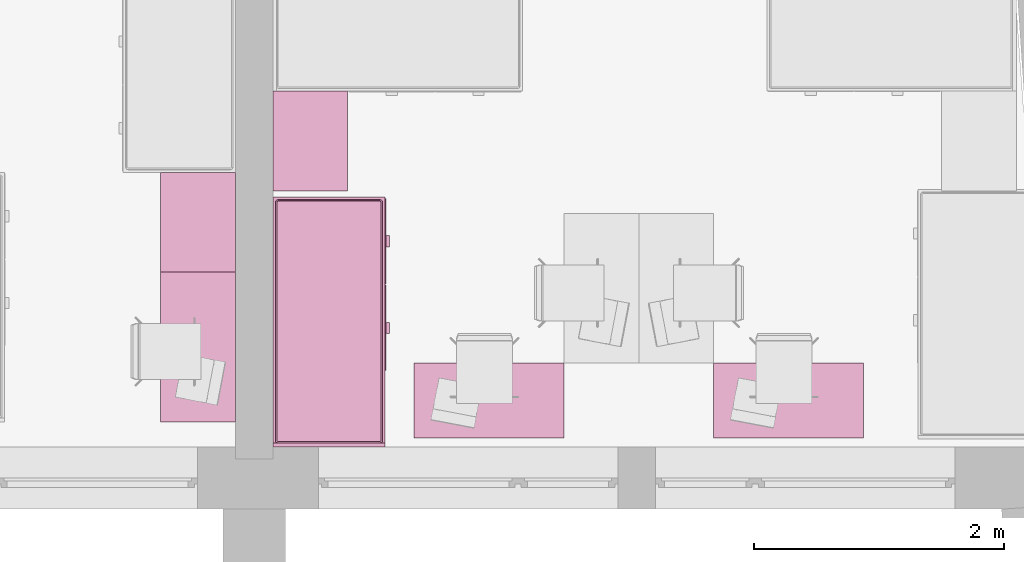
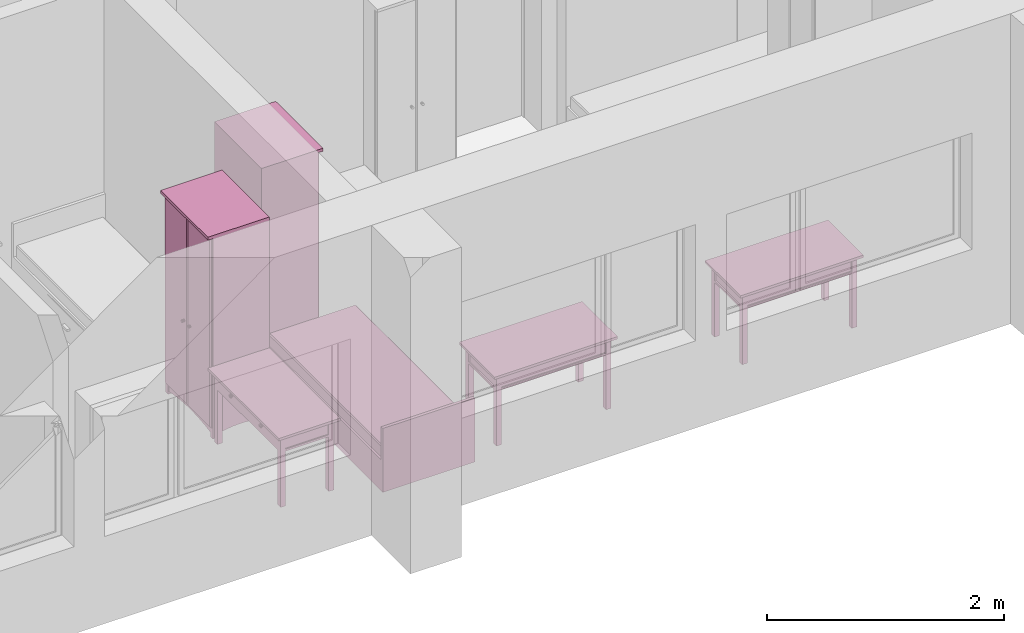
# One storey, part 139 of 165: 6 furnishings.
"""IFC2X3 building model written with IfcOpenShell, lengths in millimetres."""

from ifc_helpers import new_model, entity, si_unit, converted_unit, money_unit, direction, frame, origin_with_axes, place, context, subcontext, project, spatial, faceted_brep, source, transform, mapped, material, material_list, type_object, element, save


model = new_model("IFC2X3")

# Units and contexts
model_context = context("Model", 3, precision=1e-05, world=origin_with_axes(), true_north=direction((0.0, 1.0)))
body_context = subcontext(model_context, "Body", "Model", "MODEL_VIEW")
ifc_project = project(units=[si_unit("LENGTHUNIT", "METRE", prefix="MILLI"), si_unit("AREAUNIT", "SQUARE_METRE"), si_unit("VOLUMEUNIT", "CUBIC_METRE"), converted_unit("PLANEANGLEUNIT", "DEGREE", entity("IfcPlaneAngleMeasure", 0.0174532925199), si_unit("PLANEANGLEUNIT", "RADIAN"), dimensions=[0, 0, 0, 0, 0, 0, 0]), si_unit("SOLIDANGLEUNIT", "STERADIAN"), money_unit("USD"), converted_unit("TIMEUNIT", "Year", entity("IfcTimeMeasure", 31556926.0), si_unit("TIMEUNIT", "SECOND"), dimensions=[0, 0, 0, 0, 0, 0, 0]), si_unit("MASSUNIT", "GRAM"), si_unit("THERMODYNAMICTEMPERATUREUNIT", "DEGREE_CELSIUS"), si_unit("LUMINOUSINTENSITYUNIT", "LUMEN")], contexts=[model_context])

# Site, building, storey
site_placement = place(None, origin_with_axes())
site = spatial("IfcSite", under=ifc_project, at=site_placement, Name="Site", CompositionType="ELEMENT")
building_placement = place(site_placement, origin_with_axes())
building = spatial("IfcBuilding", under=site, at=building_placement, Name="Building", CompositionType="ELEMENT")
storey_placement = place(building_placement, frame((0.0, 0.0, 6300.0), z_axis=(0.0, 0.0, 1.0), x_axis=(1.0, 0.0, 0.0)))
storey = spatial("IfcBuildingStorey", under=building, at=storey_placement, Name="4KORRUS", CompositionType="ELEMENT", Elevation=6300.0)

# Furnishings
ifc_material = material(Name="Background")
ifc_material_list = material_list([ifc_material])
furnishing_element_type_1 = type_object("IfcFurnishingElementType", Name="Cupboard 19")
shared_shape_1 = source(origin_with_axes(), body_context, "Body", "Brep", [
    faceted_brep([(-780.0, 600.0, 120.0), (-780.0, 580.0, 120.0), (-780.0, 580.0, 2050.0), (-780.0, 600.0, 2050.0), (-20.0, 600.0, 120.0), (-20.0, 580.0, 120.0), (-20.0, 580.0, 2050.0), (-20.0, 600.0, 2050.0)], [[[0, 1, 2, 3]], [[0, 4, 5, 1]], [[1, 5, 6, 2]], [[3, 2, 6, 7]], [[4, 0, 3, 7]], [[5, 4, 7, 6]]]),
    faceted_brep([(0.0, 50.0, 100.0), (-20.0, 50.0, 100.0), (-20.0, 600.0, 100.0), (0.0, 600.0, 100.0), (0.0, 50.0, 2070.0), (-20.0, 50.0, 2070.0), (-20.0, 600.0, 2070.0), (0.0, 600.0, 2070.0)], [[[0, 1, 2, 3]], [[1, 0, 4, 5]], [[2, 1, 5, 6]], [[3, 2, 6, 7]], [[0, 3, 7, 4]], [[5, 4, 7, 6]]]),
    faceted_brep([(-780.0, 50.0, 100.0), (-800.0, 50.0, 100.0), (-800.0, 600.0, 100.0), (-780.0, 600.0, 100.0), (-780.0, 50.0, 2070.0), (-800.0, 50.0, 2070.0), (-800.0, 600.0, 2070.0), (-780.0, 600.0, 2070.0)], [[[0, 1, 2, 3]], [[1, 0, 4, 5]], [[2, 1, 5, 6]], [[3, 2, 6, 7]], [[0, 3, 7, 4]], [[5, 4, 7, 6]]]),
    faceted_brep([(-20.0, 50.0, 100.0), (-780.0, 50.0, 100.0), (-780.0, 600.0, 100.0), (-20.0, 600.0, 100.0), (-20.0, 50.0, 120.0), (-780.0, 50.0, 120.0), (-780.0, 600.0, 120.0), (-20.0, 600.0, 120.0)], [[[0, 1, 2, 3]], [[1, 0, 4, 5]], [[2, 1, 5, 6]], [[3, 2, 6, 7]], [[0, 3, 7, 4]], [[5, 4, 7, 6]]]),
    faceted_brep([(-20.0, 50.0, 2050.0), (-780.0, 50.0, 2050.0), (-780.0, 600.0, 2050.0), (-20.0, 600.0, 2050.0), (-20.0, 50.0, 2070.0), (-780.0, 50.0, 2070.0), (-780.0, 600.0, 2070.0), (-20.0, 600.0, 2070.0)], [[[0, 1, 2, 3]], [[1, 0, 4, 5]], [[2, 1, 5, 6]], [[3, 2, 6, 7]], [[0, 3, 7, 4]], [[5, 4, 7, 6]]]),
    faceted_brep([(0.0, 600.0, 2070.0), (0.0, 600.0, 2100.0), (0.0, 0.0, 2100.0), (0.0, 0.0, 2070.0), (-800.0, 600.0, 2070.0), (-800.0, 600.0, 2100.0), (-800.0, 0.0, 2100.0), (-800.0, 0.0, 2070.0)], [[[0, 1, 2, 3]], [[4, 5, 1, 0]], [[1, 5, 6, 2]], [[3, 2, 6, 7]], [[0, 3, 7, 4]], [[7, 6, 5, 4]]]),
    faceted_brep([(-760.0, 590.0, 25.0), (-640.962, 590.0, 45.8), (-640.962, 570.0, 45.8), (-760.0, 570.0, 25.0), (-760.0, 590.0, 100.0), (-40.0, 590.0, 100.0), (-40.0, 590.0, 25.0), (-159.038, 590.0, 45.8), (-279.23, 590.0, 58.32), (-400.0, 590.0, 62.5), (-520.77, 590.0, 58.32), (-520.77, 570.0, 58.32), (-400.0, 570.0, 62.5), (-279.23, 570.0, 58.32), (-159.038, 570.0, 45.8), (-40.0, 570.0, 25.0), (-40.0, 570.0, 100.0), (-760.0, 570.0, 100.0)], [[[0, 1, 2, 3]], [[0, 4, 5, 6, 7, 8, 9, 10, 1]], [[1, 10, 11, 2]], [[3, 2, 11, 12, 13, 14, 15, 16, 17]], [[4, 0, 3, 17]], [[5, 4, 17, 16]], [[6, 5, 16, 15]], [[7, 6, 15, 14]], [[8, 7, 14, 13]], [[9, 8, 13, 12]], [[10, 9, 12, 11]]]),
    faceted_brep([(-760.0, 80.0, 25.0), (-640.962, 80.0, 45.8), (-640.962, 60.0, 45.8), (-760.0, 60.0, 25.0), (-760.0, 80.0, 100.0), (-40.0, 80.0, 100.0), (-40.0, 80.0, 25.0), (-159.038, 80.0, 45.8), (-279.23, 80.0, 58.32), (-400.0, 80.0, 62.5), (-520.77, 80.0, 58.32), (-520.77, 60.0, 58.32), (-400.0, 60.0, 62.5), (-279.23, 60.0, 58.32), (-159.038, 60.0, 45.8), (-40.0, 60.0, 25.0), (-40.0, 60.0, 100.0), (-760.0, 60.0, 100.0)], [[[0, 1, 2, 3]], [[0, 4, 5, 6, 7, 8, 9, 10, 1]], [[1, 10, 11, 2]], [[3, 2, 11, 12, 13, 14, 15, 16, 17]], [[4, 0, 3, 17]], [[5, 4, 17, 16]], [[6, 5, 16, 15]], [[7, 6, 15, 14]], [[8, 7, 14, 13]], [[9, 8, 13, 12]], [[10, 9, 12, 11]]]),
    faceted_brep([(-790.0, 90.0, 25.0), (-790.0, 141.266, 38.072), (-770.0, 141.266, 38.072), (-770.0, 90.0, 25.0), (-790.0, 90.0, 100.0), (-790.0, 560.0, 100.0), (-790.0, 560.0, 25.0), (-790.0, 508.734, 38.072), (-790.0, 456.752, 47.92), (-790.0, 404.257, 54.508), (-790.0, 351.453, 57.808), (-790.0, 298.547, 57.808), (-790.0, 245.743, 54.508), (-790.0, 193.248, 47.92), (-770.0, 193.248, 47.92), (-770.0, 245.743, 54.508), (-770.0, 298.547, 57.808), (-770.0, 351.453, 57.808), (-770.0, 404.257, 54.508), (-770.0, 456.752, 47.92), (-770.0, 508.734, 38.072), (-770.0, 560.0, 25.0), (-770.0, 560.0, 100.0), (-770.0, 90.0, 100.0)], [[[0, 1, 2, 3]], [[0, 4, 5, 6, 7, 8, 9, 10, 11, 12, 13, 1]], [[1, 13, 14, 2]], [[3, 2, 14, 15, 16, 17, 18, 19, 20, 21, 22, 23]], [[4, 0, 3, 23]], [[5, 4, 23, 22]], [[6, 5, 22, 21]], [[7, 6, 21, 20]], [[8, 7, 20, 19]], [[9, 8, 19, 18]], [[10, 9, 18, 17]], [[11, 10, 17, 16]], [[12, 11, 16, 15]], [[13, 12, 15, 14]]]),
    faceted_brep([(-30.0, 90.0, 25.0), (-30.0, 141.266, 38.072), (-10.0, 141.266, 38.072), (-10.0, 90.0, 25.0), (-30.0, 90.0, 100.0), (-30.0, 560.0, 100.0), (-30.0, 560.0, 25.0), (-30.0, 508.734, 38.072), (-30.0, 456.752, 47.92), (-30.0, 404.257, 54.508), (-30.0, 351.453, 57.808), (-30.0, 298.547, 57.808), (-30.0, 245.743, 54.508), (-30.0, 193.248, 47.92), (-10.0, 193.248, 47.92), (-10.0, 245.743, 54.508), (-10.0, 298.547, 57.808), (-10.0, 351.453, 57.808), (-10.0, 404.257, 54.508), (-10.0, 456.752, 47.92), (-10.0, 508.734, 38.072), (-10.0, 560.0, 25.0), (-10.0, 560.0, 100.0), (-10.0, 90.0, 100.0)], [[[0, 1, 2, 3]], [[0, 4, 5, 6, 7, 8, 9, 10, 11, 12, 13, 1]], [[1, 13, 14, 2]], [[3, 2, 14, 15, 16, 17, 18, 19, 20, 21, 22, 23]], [[4, 0, 3, 23]], [[5, 4, 23, 22]], [[6, 5, 22, 21]], [[7, 6, 21, 20]], [[8, 7, 20, 19]], [[9, 8, 19, 18]], [[10, 9, 18, 17]], [[11, 10, 17, 16]], [[12, 11, 16, 15]], [[13, 12, 15, 14]]]),
    faceted_brep([(-760.0, 560.0, 0.0), (-760.0, 600.0, 0.0), (-760.0, 600.0, 100.0), (-760.0, 560.0, 100.0), (-800.0, 560.0, 0.0), (-800.0, 600.0, 0.0), (-800.0, 600.0, 100.0), (-800.0, 560.0, 100.0)], [[[0, 1, 2, 3]], [[0, 4, 5, 1]], [[1, 5, 6, 2]], [[3, 2, 6, 7]], [[4, 0, 3, 7]], [[5, 4, 7, 6]]]),
    faceted_brep([(0.0, 560.0, 0.0), (0.0, 600.0, 0.0), (0.0, 600.0, 100.0), (0.0, 560.0, 100.0), (-40.0, 560.0, 0.0), (-40.0, 600.0, 0.0), (-40.0, 600.0, 100.0), (-40.0, 560.0, 100.0)], [[[0, 1, 2, 3]], [[0, 4, 5, 1]], [[1, 5, 6, 2]], [[3, 2, 6, 7]], [[4, 0, 3, 7]], [[5, 4, 7, 6]]]),
    faceted_brep([(-760.0, 50.0, 0.0), (-760.0, 90.0, 0.0), (-760.0, 90.0, 100.0), (-760.0, 50.0, 100.0), (-800.0, 50.0, 0.0), (-800.0, 90.0, 0.0), (-800.0, 90.0, 100.0), (-800.0, 50.0, 100.0)], [[[0, 1, 2, 3]], [[0, 4, 5, 1]], [[1, 5, 6, 2]], [[3, 2, 6, 7]], [[4, 0, 3, 7]], [[5, 4, 7, 6]]]),
    faceted_brep([(0.0, 50.0, 0.0), (0.0, 90.0, 0.0), (0.0, 90.0, 100.0), (0.0, 50.0, 100.0), (-40.0, 50.0, 0.0), (-40.0, 90.0, 0.0), (-40.0, 90.0, 100.0), (-40.0, 50.0, 100.0)], [[[0, 1, 2, 3]], [[0, 4, 5, 1]], [[1, 5, 6, 2]], [[3, 2, 6, 7]], [[4, 0, 3, 7]], [[5, 4, 7, 6]]]),
    faceted_brep([(-780.0, 580.0, 587.5), (-780.0, 50.0, 587.5), (-780.0, 50.0, 607.5), (-780.0, 580.0, 607.5), (-20.0, 580.0, 587.5), (-20.0, 50.0, 587.5), (-20.0, 50.0, 607.5), (-20.0, 580.0, 607.5)], [[[0, 1, 2, 3]], [[0, 4, 5, 1]], [[1, 5, 6, 2]], [[3, 2, 6, 7]], [[4, 0, 3, 7]], [[5, 4, 7, 6]]]),
    faceted_brep([(-780.0, 580.0, 1075.0), (-780.0, 50.0, 1075.0), (-780.0, 50.0, 1095.0), (-780.0, 580.0, 1095.0), (-20.0, 580.0, 1075.0), (-20.0, 50.0, 1075.0), (-20.0, 50.0, 1095.0), (-20.0, 580.0, 1095.0)], [[[0, 1, 2, 3]], [[0, 4, 5, 1]], [[1, 5, 6, 2]], [[3, 2, 6, 7]], [[4, 0, 3, 7]], [[5, 4, 7, 6]]]),
    faceted_brep([(-780.0, 580.0, 1562.5), (-780.0, 50.0, 1562.5), (-780.0, 50.0, 1582.5), (-780.0, 580.0, 1582.5), (-20.0, 580.0, 1562.5), (-20.0, 50.0, 1562.5), (-20.0, 50.0, 1582.5), (-20.0, 580.0, 1582.5)], [[[0, 1, 2, 3]], [[0, 4, 5, 1]], [[1, 5, 6, 2]], [[3, 2, 6, 7]], [[4, 0, 3, 7]], [[5, 4, 7, 6]]]),
    faceted_brep([(-789.5, 50.0, 110.5), (-789.5, 50.0, 2059.5), (-400.5, 50.0, 2059.5), (-400.5, 50.0, 110.5), (-789.5, 40.0, 110.5), (-789.5, 40.0, 2059.5), (-400.5, 40.0, 2059.5), (-400.5, 40.0, 110.5), (-779.5, 30.0, 120.5), (-779.5, 30.0, 2049.5), (-410.5, 30.0, 2049.5), (-410.5, 30.0, 120.5)], [[[0, 1, 2, 3]], [[1, 0, 4, 5]], [[2, 1, 5, 6]], [[3, 2, 6, 7]], [[0, 3, 7, 4]], [[5, 4, 8, 9]], [[6, 5, 9, 10]], [[7, 6, 10, 11]], [[4, 7, 11, 8]], [[10, 9, 8, 11]]]),
    faceted_brep([(-399.5, 50.0, 110.5), (-399.5, 50.0, 2059.5), (-10.5, 50.0, 2059.5), (-10.5, 50.0, 110.5), (-399.5, 40.0, 110.5), (-399.5, 40.0, 2059.5), (-10.5, 40.0, 2059.5), (-10.5, 40.0, 110.5), (-389.5, 30.0, 120.5), (-389.5, 30.0, 2049.5), (-20.5, 30.0, 2049.5), (-20.5, 30.0, 120.5)], [[[0, 1, 2, 3]], [[1, 0, 4, 5]], [[2, 1, 5, 6]], [[3, 2, 6, 7]], [[0, 3, 7, 4]], [[5, 4, 8, 9]], [[6, 5, 9, 10]], [[7, 6, 10, 11]], [[4, 7, 11, 8]], [[10, 9, 8, 11]]]),
    faceted_brep([(-339.608, 30.0, 954.0), (-344.0, 30.0, 949.608), (-350.0, 30.0, 948.0), (-356.0, 30.0, 949.608), (-360.392, 30.0, 954.0), (-362.0, 30.0, 960.0), (-360.392, 30.0, 966.0), (-356.0, 30.0, 970.392), (-350.0, 30.0, 972.0), (-344.0, 30.0, 970.392), (-339.608, 30.0, 966.0), (-338.0, 30.0, 960.0), (-339.608, 5.0, 954.0), (-344.0, 5.0, 949.608), (-350.0, 5.0, 948.0), (-356.0, 5.0, 949.608), (-360.392, 5.0, 954.0), (-362.0, 5.0, 960.0), (-360.392, 5.0, 966.0), (-356.0, 5.0, 970.392), (-350.0, 5.0, 972.0), (-344.0, 5.0, 970.392), (-339.608, 5.0, 966.0), (-338.0, 5.0, 960.0)], [[[0, 1, 2, 3, 4, 5, 6, 7, 8, 9, 10, 11]], [[1, 0, 12, 13]], [[2, 1, 13, 14]], [[3, 2, 14, 15]], [[4, 3, 15, 16]], [[5, 4, 16, 17]], [[6, 5, 17, 18]], [[7, 6, 18, 19]], [[8, 7, 19, 20]], [[9, 8, 20, 21]], [[10, 9, 21, 22]], [[11, 10, 22, 23]], [[0, 11, 23, 12]], [[12, 23, 22, 21, 20, 19, 18, 17, 16, 15, 14, 13]]]),
    faceted_brep([(-460.392, 30.0, 954.0), (-462.0, 30.0, 960.0), (-460.392, 30.0, 966.0), (-456.0, 30.0, 970.392), (-450.0, 30.0, 972.0), (-444.0, 30.0, 970.392), (-439.608, 30.0, 966.0), (-438.0, 30.0, 960.0), (-439.608, 30.0, 954.0), (-444.0, 30.0, 949.608), (-450.0, 30.0, 948.0), (-456.0, 30.0, 949.608), (-460.392, 5.0, 954.0), (-462.0, 5.0, 960.0), (-460.392, 5.0, 966.0), (-456.0, 5.0, 970.392), (-450.0, 5.0, 972.0), (-444.0, 5.0, 970.392), (-439.608, 5.0, 966.0), (-438.0, 5.0, 960.0), (-439.608, 5.0, 954.0), (-444.0, 5.0, 949.608), (-450.0, 5.0, 948.0), (-456.0, 5.0, 949.608)], [[[0, 1, 2, 3, 4, 5, 6, 7, 8, 9, 10, 11]], [[0, 12, 13, 1]], [[1, 13, 14, 2]], [[2, 14, 15, 3]], [[3, 15, 16, 4]], [[4, 16, 17, 5]], [[5, 17, 18, 6]], [[6, 18, 19, 7]], [[7, 19, 20, 8]], [[8, 20, 21, 9]], [[9, 21, 22, 10]], [[10, 22, 23, 11]], [[11, 23, 12, 0]], [[12, 23, 22, 21, 20, 19, 18, 17, 16, 15, 14, 13]]]),
])
for number, where, z_axis, x_axis, name in (
    (1, (11109.7032967, -18239.2398994, 0.0), (0.0, 0.0, 1.0), (0.0, -1.0, 0.0), "FU - 014"),
    (2, (12609.7032967, -16789.0262806, 0.0), (0.0, 0.0, 1.0), (0.0, 1.0, 0.0), "FU - 014"),
):
    element("IfcFurnishingElement", number, at=place(storey_placement, frame(where, z_axis=z_axis, x_axis=x_axis)), inside=storey, type_object=furnishing_element_type_1, material=ifc_material_list, Name=name, context=body_context, shape_type="MappedRepresentation", body=[
        mapped(shared_shape_1, transform((0.0, 0.0, 0.0))),
    ])
furnishing_element_type_2 = type_object("IfcFurnishingElementType", Name="Bed 19")
shared_shape_2 = source(origin_with_axes(), body_context, "Body", "Brep", [
    faceted_brep([(-900.0, 1970.0, 0.0), (-900.0, 2000.0, 0.0), (0.0, 2000.0, 0.0), (0.0, 1970.0, 0.0), (-900.0, 1970.0, 660.0), (-900.0, 2000.0, 660.0), (0.0, 2000.0, 660.0), (0.0, 1970.0, 660.0)], [[[0, 1, 2, 3]], [[0, 4, 5, 1]], [[1, 5, 6, 2]], [[2, 6, 7, 3]], [[3, 7, 4, 0]], [[7, 6, 5, 4]]]),
    faceted_brep([(-900.0, 0.0, 0.0), (-900.0, 1970.0, 0.0), (0.0, 1970.0, 0.0), (0.0, 0.0, 0.0), (-900.0, 0.0, 320.0), (-900.0, 1970.0, 320.0), (0.0, 1970.0, 320.0), (0.0, 0.0, 320.0)], [[[0, 1, 2, 3]], [[0, 4, 5, 1]], [[1, 5, 6, 2]], [[2, 6, 7, 3]], [[3, 7, 4, 0]], [[7, 6, 5, 4]]]),
    faceted_brep([(-905.0, 10.0, 30.0), (-905.0, 695.0, 30.0), (-900.0, 695.0, 30.0), (-900.0, 10.0, 30.0), (-905.0, 10.0, 290.0), (-905.0, 695.0, 290.0), (-900.0, 695.0, 290.0), (-900.0, 10.0, 290.0)], [[[0, 1, 2, 3]], [[0, 4, 5, 1]], [[1, 5, 6, 2]], [[2, 6, 7, 3]], [[3, 7, 4, 0]], [[7, 6, 5, 4]]]),
    faceted_brep([(-935.0, 307.5, 150.0), (-935.0, 397.5, 150.0), (-905.0, 397.5, 150.0), (-905.0, 307.5, 150.0), (-935.0, 307.5, 170.0), (-935.0, 397.5, 170.0), (-905.0, 397.5, 170.0), (-905.0, 307.5, 170.0)], [[[0, 1, 2, 3]], [[0, 4, 5, 1]], [[1, 5, 6, 2]], [[2, 6, 7, 3]], [[3, 7, 4, 0]], [[7, 6, 5, 4]]]),
    faceted_brep([(-905.0, 705.0, 30.0), (-905.0, 1390.0, 30.0), (-900.0, 1390.0, 30.0), (-900.0, 705.0, 30.0), (-905.0, 705.0, 290.0), (-905.0, 1390.0, 290.0), (-900.0, 1390.0, 290.0), (-900.0, 705.0, 290.0)], [[[0, 1, 2, 3]], [[0, 4, 5, 1]], [[1, 5, 6, 2]], [[2, 6, 7, 3]], [[3, 7, 4, 0]], [[7, 6, 5, 4]]]),
    faceted_brep([(-935.0, 1002.5, 150.0), (-935.0, 1092.5, 150.0), (-905.0, 1092.5, 150.0), (-905.0, 1002.5, 150.0), (-935.0, 1002.5, 170.0), (-935.0, 1092.5, 170.0), (-905.0, 1092.5, 170.0), (-905.0, 1002.5, 170.0)], [[[0, 1, 2, 3]], [[0, 4, 5, 1]], [[1, 5, 6, 2]], [[2, 6, 7, 3]], [[3, 7, 4, 0]], [[7, 6, 5, 4]]]),
    faceted_brep([(-20.0, 40.0, 350.0), (-21.522, 32.346, 350.0), (-25.858, 25.858, 350.0), (-32.346, 21.522, 350.0), (-40.0, 20.0, 350.0), (-860.0, 20.0, 350.0), (-867.654, 21.522, 350.0), (-874.142, 25.858, 350.0), (-878.478, 32.346, 350.0), (-880.0, 40.0, 350.0), (-880.0, 1950.0, 350.0), (-878.478, 1957.654, 350.0), (-874.142, 1964.142, 350.0), (-867.654, 1968.478, 350.0), (-860.0, 1970.0, 350.0), (-40.0, 1970.0, 350.0), (-32.346, 1968.478, 350.0), (-25.858, 1964.142, 350.0), (-21.522, 1957.654, 350.0), (-20.0, 1950.0, 350.0), (-20.0, 40.0, 420.0), (-21.522, 32.346, 420.0), (-25.858, 25.858, 420.0), (-32.346, 21.522, 420.0), (-40.0, 20.0, 420.0), (-860.0, 20.0, 420.0), (-867.654, 21.522, 420.0), (-874.142, 25.858, 420.0), (-878.478, 32.346, 420.0), (-880.0, 40.0, 420.0), (-880.0, 1950.0, 420.0), (-878.478, 1957.654, 420.0), (-874.142, 1964.142, 420.0), (-867.654, 1968.478, 420.0), (-860.0, 1970.0, 420.0), (-40.0, 1970.0, 420.0), (-32.346, 1968.478, 420.0), (-25.858, 1964.142, 420.0), (-21.522, 1957.654, 420.0), (-20.0, 1950.0, 420.0), (-21.522, 40.15, 427.654), (-22.956, 32.94, 427.654), (-26.955, 26.955, 427.654), (-32.94, 22.956, 427.654), (-40.15, 21.522, 427.654), (-859.85, 21.522, 427.654), (-867.06, 22.956, 427.654), (-873.045, 26.955, 427.654), (-877.044, 32.94, 427.654), (-878.478, 40.15, 427.654), (-878.478, 1949.85, 427.654), (-877.044, 1957.06, 427.654), (-873.045, 1963.045, 427.654), (-867.06, 1967.044, 427.654), (-859.85, 1968.478, 427.654), (-40.15, 1968.478, 427.654), (-32.94, 1967.044, 427.654), (-26.955, 1963.045, 427.654), (-22.956, 1957.06, 427.654), (-21.522, 1949.85, 427.654), (-32.346, 41.216, 438.478), (-33.152, 37.164, 438.478), (-34.759, 34.759, 438.478), (-37.164, 33.152, 438.478), (-41.216, 32.346, 438.478), (-858.784, 32.346, 438.478), (-862.836, 33.152, 438.478), (-865.241, 34.759, 438.478), (-866.848, 37.164, 438.478), (-867.654, 41.216, 438.478), (-867.654, 1948.784, 438.478), (-866.848, 1952.836, 438.478), (-865.241, 1955.241, 438.478), (-862.836, 1956.848, 438.478), (-858.784, 1957.654, 438.478), (-41.216, 1957.654, 438.478), (-37.164, 1956.848, 438.478), (-34.759, 1955.241, 438.478), (-33.152, 1952.836, 438.478), (-32.346, 1948.784, 438.478), (-40.0, 41.97, 440.0), (-40.327, 40.327, 440.0), (-40.0, 40.0, 439.924), (-41.97, 40.0, 440.0), (-858.03, 40.0, 440.0), (-859.673, 40.327, 440.0), (-860.0, 40.0, 439.924), (-860.0, 41.97, 440.0), (-860.0, 1948.03, 440.0), (-859.673, 1949.673, 440.0), (-860.0, 1950.0, 439.924), (-858.03, 1950.0, 440.0), (-41.97, 1950.0, 440.0), (-40.327, 1949.673, 440.0), (-40.0, 1950.0, 439.924), (-40.0, 1948.03, 440.0)], [[[0, 1, 2, 3, 4, 5, 6, 7, 8, 9, 10, 11, 12, 13, 14, 15, 16, 17, 18, 19]], [[0, 20, 21, 1]], [[1, 21, 22, 2]], [[2, 22, 23, 3]], [[3, 23, 24, 4]], [[4, 24, 25, 5]], [[5, 25, 26, 6]], [[6, 26, 27, 7]], [[7, 27, 28, 8]], [[8, 28, 29, 9]], [[9, 29, 30, 10]], [[10, 30, 31, 11]], [[11, 31, 32, 12]], [[12, 32, 33, 13]], [[13, 33, 34, 14]], [[14, 34, 35, 15]], [[15, 35, 36, 16]], [[16, 36, 37, 17]], [[17, 37, 38, 18]], [[18, 38, 39, 19]], [[19, 39, 20, 0]], [[20, 40, 41, 21]], [[21, 41, 42, 22]], [[22, 42, 43, 23]], [[23, 43, 44, 24]], [[24, 44, 45, 25]], [[25, 45, 46, 26]], [[26, 46, 47, 27]], [[27, 47, 48, 28]], [[28, 48, 49, 29]], [[29, 49, 50, 30]], [[30, 50, 51, 31]], [[31, 51, 52, 32]], [[32, 52, 53, 33]], [[33, 53, 54, 34]], [[34, 54, 55, 35]], [[35, 55, 56, 36]], [[36, 56, 57, 37]], [[37, 57, 58, 38]], [[38, 58, 59, 39]], [[39, 59, 40, 20]], [[40, 60, 61, 41]], [[41, 61, 62, 42]], [[42, 62, 63, 43]], [[43, 63, 64, 44]], [[44, 64, 65, 45]], [[45, 65, 66, 46]], [[46, 66, 67, 47]], [[47, 67, 68, 48]], [[48, 68, 69, 49]], [[49, 69, 70, 50]], [[50, 70, 71, 51]], [[51, 71, 72, 52]], [[52, 72, 73, 53]], [[53, 73, 74, 54]], [[54, 74, 75, 55]], [[55, 75, 76, 56]], [[56, 76, 77, 57]], [[57, 77, 78, 58]], [[58, 78, 79, 59]], [[59, 79, 60, 40]], [[60, 80, 81, 82, 61]], [[61, 82, 62]], [[62, 82, 63]], [[63, 82, 81, 83, 64]], [[64, 83, 84, 65]], [[65, 84, 85, 86, 66]], [[66, 86, 67]], [[67, 86, 68]], [[68, 86, 85, 87, 69]], [[69, 87, 88, 70]], [[70, 88, 89, 90, 71]], [[71, 90, 72]], [[72, 90, 73]], [[73, 90, 89, 91, 74]], [[74, 91, 92, 75]], [[75, 92, 93, 94, 76]], [[76, 94, 77]], [[77, 94, 78]], [[78, 94, 93, 95, 79]], [[79, 95, 80, 60]], [[95, 93, 92, 91, 89, 88, 87, 85, 84, 83, 81, 80]]]),
    faceted_brep([(-20.0, 40.0, 350.0), (-20.0, 1950.0, 350.0), (-21.522, 1957.654, 350.0), (-25.858, 1964.142, 350.0), (-32.346, 1968.478, 350.0), (-40.0, 1970.0, 350.0), (-860.0, 1970.0, 350.0), (-867.654, 1968.478, 350.0), (-874.142, 1964.142, 350.0), (-878.478, 1957.654, 350.0), (-880.0, 1950.0, 350.0), (-880.0, 40.0, 350.0), (-878.478, 32.346, 350.0), (-874.142, 25.858, 350.0), (-867.654, 21.522, 350.0), (-860.0, 20.0, 350.0), (-40.0, 20.0, 350.0), (-32.346, 21.522, 350.0), (-25.858, 25.858, 350.0), (-21.522, 32.346, 350.0), (-20.0, 40.0, 320.0), (-20.0, 1950.0, 320.0), (-21.522, 1957.654, 320.0), (-25.858, 1964.142, 320.0), (-32.346, 1968.478, 320.0), (-40.0, 1970.0, 320.0), (-860.0, 1970.0, 320.0), (-867.654, 1968.478, 320.0), (-874.142, 1964.142, 320.0), (-878.478, 1957.654, 320.0), (-880.0, 1950.0, 320.0), (-880.0, 40.0, 320.0), (-878.478, 32.346, 320.0), (-874.142, 25.858, 320.0), (-867.654, 21.522, 320.0), (-860.0, 20.0, 320.0), (-40.0, 20.0, 320.0), (-32.346, 21.522, 320.0), (-25.858, 25.858, 320.0), (-21.522, 32.346, 320.0)], [[[0, 1, 2, 3, 4, 5, 6, 7, 8, 9, 10, 11, 12, 13, 14, 15, 16, 17, 18, 19]], [[1, 0, 20, 21]], [[2, 1, 21, 22]], [[3, 2, 22, 23]], [[4, 3, 23, 24]], [[5, 4, 24, 25]], [[6, 5, 25, 26]], [[7, 6, 26, 27]], [[8, 7, 27, 28]], [[9, 8, 28, 29]], [[10, 9, 29, 30]], [[11, 10, 30, 31]], [[12, 11, 31, 32]], [[13, 12, 32, 33]], [[14, 13, 33, 34]], [[15, 14, 34, 35]], [[16, 15, 35, 36]], [[17, 16, 36, 37]], [[18, 17, 37, 38]], [[19, 18, 38, 39]], [[0, 19, 39, 20]], [[20, 39, 38, 37, 36, 35, 34, 33, 32, 31, 30, 29, 28, 27, 26, 25, 24, 23, 22, 21]]]),
])
furnishing_placement = place(storey_placement, frame((12009.7032967, -17639.2398994, 0.0), z_axis=(0.0, 0.0, 1.0), x_axis=(-1.0, 0.0, 0.0)))
element("IfcFurnishingElement", 3, at=furnishing_placement, inside=storey, type_object=furnishing_element_type_2, material=ifc_material_list, Name="FU - 013", context=body_context, shape_type="MappedRepresentation", body=[
    mapped(shared_shape_2, transform((0.0, 0.0, 0.0))),
])
furnishing_element_type_3 = type_object("IfcFurnishingElementType", Name="Rectangular Table 01 19")
shared_shape_3 = source(origin_with_axes(), body_context, "Body", "Brep", [
    faceted_brep([(-90.0, 40.0, 0.0), (-90.0, 90.0, 0.0), (-40.0, 90.0, 0.0), (-40.0, 40.0, 0.0), (-90.0, 40.0, 725.0), (-90.0, 90.0, 725.0), (-40.0, 90.0, 725.0), (-40.0, 40.0, 725.0)], [[[0, 1, 2, 3]], [[0, 4, 5, 1]], [[1, 5, 6, 2]], [[2, 6, 7, 3]], [[3, 7, 4, 0]], [[7, 6, 5, 4]]]),
    faceted_brep([(-1160.0, 40.0, 0.0), (-1160.0, 90.0, 0.0), (-1110.0, 90.0, 0.0), (-1110.0, 40.0, 0.0), (-1160.0, 40.0, 725.0), (-1160.0, 90.0, 725.0), (-1110.0, 90.0, 725.0), (-1110.0, 40.0, 725.0)], [[[0, 1, 2, 3]], [[0, 4, 5, 1]], [[1, 5, 6, 2]], [[2, 6, 7, 3]], [[3, 7, 4, 0]], [[7, 6, 5, 4]]]),
    faceted_brep([(-90.0, 510.0, 0.0), (-90.0, 560.0, 0.0), (-40.0, 560.0, 0.0), (-40.0, 510.0, 0.0), (-90.0, 510.0, 725.0), (-90.0, 560.0, 725.0), (-40.0, 560.0, 725.0), (-40.0, 510.0, 725.0)], [[[0, 1, 2, 3]], [[0, 4, 5, 1]], [[1, 5, 6, 2]], [[2, 6, 7, 3]], [[3, 7, 4, 0]], [[7, 6, 5, 4]]]),
    faceted_brep([(-1160.0, 510.0, 0.0), (-1160.0, 560.0, 0.0), (-1110.0, 560.0, 0.0), (-1110.0, 510.0, 0.0), (-1160.0, 510.0, 725.0), (-1160.0, 560.0, 725.0), (-1110.0, 560.0, 725.0), (-1110.0, 510.0, 725.0)], [[[0, 1, 2, 3]], [[0, 4, 5, 1]], [[1, 5, 6, 2]], [[2, 6, 7, 3]], [[3, 7, 4, 0]], [[7, 6, 5, 4]]]),
    faceted_brep([(-1160.0, 40.0, 565.0), (-1160.0, 560.0, 565.0), (-40.0, 560.0, 565.0), (-40.0, 40.0, 565.0), (-1160.0, 40.0, 585.0), (-1160.0, 560.0, 585.0), (-40.0, 560.0, 585.0), (-40.0, 40.0, 585.0)], [[[0, 1, 2, 3]], [[0, 4, 5, 1]], [[1, 5, 6, 2]], [[2, 6, 7, 3]], [[3, 7, 4, 0]], [[7, 6, 5, 4]]]),
    faceted_brep([(-1110.0, 52.5, 585.0), (-1110.0, 77.5, 585.0), (-90.0, 77.5, 585.0), (-90.0, 52.5, 585.0), (-1110.0, 52.5, 745.0), (-1110.0, 77.5, 745.0), (-90.0, 77.5, 745.0), (-90.0, 52.5, 745.0)], [[[0, 1, 2, 3]], [[0, 4, 5, 1]], [[1, 5, 6, 2]], [[2, 6, 7, 3]], [[3, 7, 4, 0]], [[7, 6, 5, 4]]]),
    faceted_brep([(-77.5, 90.0, 585.0), (-77.5, 510.0, 585.0), (-52.5, 510.0, 585.0), (-52.5, 90.0, 585.0), (-77.5, 90.0, 745.0), (-77.5, 510.0, 745.0), (-52.5, 510.0, 745.0), (-52.5, 90.0, 745.0)], [[[0, 1, 2, 3]], [[0, 4, 5, 1]], [[1, 5, 6, 2]], [[2, 6, 7, 3]], [[3, 7, 4, 0]], [[7, 6, 5, 4]]]),
    faceted_brep([(-90.0, 547.5, 585.0), (-90.0, 522.5, 585.0), (-1110.0, 522.5, 585.0), (-1110.0, 547.5, 585.0), (-90.0, 547.5, 745.0), (-90.0, 522.5, 745.0), (-1110.0, 522.5, 745.0), (-1110.0, 547.5, 745.0)], [[[0, 1, 2, 3]], [[0, 4, 5, 1]], [[1, 5, 6, 2]], [[2, 6, 7, 3]], [[3, 7, 4, 0]], [[7, 6, 5, 4]]]),
    faceted_brep([(-1122.5, 510.0, 585.0), (-1122.5, 90.0, 585.0), (-1147.5, 90.0, 585.0), (-1147.5, 510.0, 585.0), (-1122.5, 510.0, 745.0), (-1122.5, 90.0, 745.0), (-1147.5, 90.0, 745.0), (-1147.5, 510.0, 745.0)], [[[0, 1, 2, 3]], [[0, 4, 5, 1]], [[1, 5, 6, 2]], [[2, 6, 7, 3]], [[3, 7, 4, 0]], [[7, 6, 5, 4]]]),
    faceted_brep([(-597.5, 40.0, 585.0), (-597.5, 60.0, 585.0), (-95.0, 60.0, 585.0), (-95.0, 40.0, 585.0), (-597.5, 40.0, 745.0), (-597.5, 60.0, 745.0), (-95.0, 60.0, 745.0), (-95.0, 40.0, 745.0)], [[[0, 1, 2, 3]], [[0, 4, 5, 1]], [[1, 5, 6, 2]], [[2, 6, 7, 3]], [[3, 7, 4, 0]], [[7, 6, 5, 4]]]),
    faceted_brep([(-1105.0, 40.0, 585.0), (-1105.0, 60.0, 585.0), (-602.5, 60.0, 585.0), (-602.5, 40.0, 585.0), (-1105.0, 40.0, 745.0), (-1105.0, 60.0, 745.0), (-602.5, 60.0, 745.0), (-602.5, 40.0, 745.0)], [[[0, 1, 2, 3]], [[0, 4, 5, 1]], [[1, 5, 6, 2]], [[2, 6, 7, 3]], [[3, 7, 4, 0]], [[7, 6, 5, 4]]]),
    faceted_brep([(-354.91, 40.0, 660.0), (-356.25, 40.0, 665.0), (-354.91, 40.0, 670.0), (-351.25, 40.0, 673.66), (-346.25, 40.0, 675.0), (-341.25, 40.0, 673.66), (-337.59, 40.0, 670.0), (-336.25, 40.0, 665.0), (-337.59, 40.0, 660.0), (-341.25, 40.0, 656.34), (-346.25, 40.0, 655.0), (-351.25, 40.0, 656.34), (-354.91, 25.0, 660.0), (-356.25, 25.0, 665.0), (-354.91, 25.0, 670.0), (-351.25, 25.0, 673.66), (-346.25, 25.0, 675.0), (-341.25, 25.0, 673.66), (-337.59, 25.0, 670.0), (-336.25, 25.0, 665.0), (-337.59, 25.0, 660.0), (-341.25, 25.0, 656.34), (-346.25, 25.0, 655.0), (-351.25, 25.0, 656.34)], [[[0, 1, 2, 3, 4, 5, 6, 7, 8, 9, 10, 11]], [[0, 12, 13, 1]], [[1, 13, 14, 2]], [[2, 14, 15, 3]], [[3, 15, 16, 4]], [[4, 16, 17, 5]], [[5, 17, 18, 6]], [[6, 18, 19, 7]], [[7, 19, 20, 8]], [[8, 20, 21, 9]], [[9, 21, 22, 10]], [[10, 22, 23, 11]], [[11, 23, 12, 0]], [[12, 23, 22, 21, 20, 19, 18, 17, 16, 15, 14, 13]]]),
    faceted_brep([(-356.25, 12.01, 665.0), (-354.91, 12.01, 660.0), (-346.25, 10.0, 665.0), (-363.571, 17.5, 665.0), (-361.25, 17.5, 656.34), (-351.25, 12.01, 656.34), (-354.91, 12.01, 670.0), (-366.25, 25.0, 665.0), (-363.571, 25.0, 655.0), (-354.91, 17.5, 650.0), (-361.25, 17.5, 673.66), (-346.25, 12.01, 655.0), (-351.25, 12.01, 673.66), (-363.571, 25.0, 675.0), (-356.25, 25.0, 682.321), (-346.25, 25.0, 685.0), (-336.25, 25.0, 682.321), (-328.929, 25.0, 675.0), (-326.25, 25.0, 665.0), (-328.929, 25.0, 655.0), (-336.25, 25.0, 647.679), (-346.25, 25.0, 645.0), (-356.25, 25.0, 647.679), (-346.25, 17.5, 647.679), (-354.91, 17.5, 680.0), (-341.25, 12.01, 656.34), (-346.25, 12.01, 675.0), (-346.25, 17.5, 682.321), (-337.59, 17.5, 680.0), (-331.25, 17.5, 673.66), (-328.929, 17.5, 665.0), (-331.25, 17.5, 656.34), (-337.59, 17.5, 650.0), (-337.59, 12.01, 660.0), (-341.25, 12.01, 673.66), (-337.59, 12.01, 670.0), (-336.25, 12.01, 665.0)], [[[0, 1, 2]], [[3, 4, 1, 0]], [[1, 5, 2]], [[6, 0, 2]], [[7, 8, 4, 3]], [[4, 9, 5, 1]], [[10, 3, 0, 6]], [[5, 11, 2]], [[12, 6, 2]], [[8, 7, 13, 14, 15, 16, 17, 18, 19, 20, 21, 22]], [[8, 22, 9, 4]], [[13, 7, 3, 10]], [[9, 23, 11, 5]], [[24, 10, 6, 12]], [[11, 25, 2]], [[26, 12, 2]], [[14, 13, 10, 24]], [[15, 14, 24, 27]], [[16, 15, 27, 28]], [[17, 16, 28, 29]], [[18, 17, 29, 30]], [[19, 18, 30, 31]], [[20, 19, 31, 32]], [[21, 20, 32, 23]], [[22, 21, 23, 9]], [[23, 32, 25, 11]], [[27, 24, 12, 26]], [[25, 33, 2]], [[34, 26, 2]], [[28, 27, 26, 34]], [[29, 28, 34, 35]], [[30, 29, 35, 36]], [[31, 30, 36, 33]], [[32, 31, 33, 25]], [[33, 36, 2]], [[35, 34, 2]], [[36, 35, 2]]]),
    faceted_brep([(-862.41, 40.0, 660.0), (-863.75, 40.0, 665.0), (-862.41, 40.0, 670.0), (-858.75, 40.0, 673.66), (-853.75, 40.0, 675.0), (-848.75, 40.0, 673.66), (-845.09, 40.0, 670.0), (-843.75, 40.0, 665.0), (-845.09, 40.0, 660.0), (-848.75, 40.0, 656.34), (-853.75, 40.0, 655.0), (-858.75, 40.0, 656.34), (-862.41, 25.0, 660.0), (-863.75, 25.0, 665.0), (-862.41, 25.0, 670.0), (-858.75, 25.0, 673.66), (-853.75, 25.0, 675.0), (-848.75, 25.0, 673.66), (-845.09, 25.0, 670.0), (-843.75, 25.0, 665.0), (-845.09, 25.0, 660.0), (-848.75, 25.0, 656.34), (-853.75, 25.0, 655.0), (-858.75, 25.0, 656.34)], [[[0, 1, 2, 3, 4, 5, 6, 7, 8, 9, 10, 11]], [[0, 12, 13, 1]], [[1, 13, 14, 2]], [[2, 14, 15, 3]], [[3, 15, 16, 4]], [[4, 16, 17, 5]], [[5, 17, 18, 6]], [[6, 18, 19, 7]], [[7, 19, 20, 8]], [[8, 20, 21, 9]], [[9, 21, 22, 10]], [[10, 22, 23, 11]], [[11, 23, 12, 0]], [[12, 23, 22, 21, 20, 19, 18, 17, 16, 15, 14, 13]]]),
    faceted_brep([(-863.75, 12.01, 665.0), (-862.41, 12.01, 660.0), (-853.75, 10.0, 665.0), (-871.071, 17.5, 665.0), (-868.75, 17.5, 656.34), (-858.75, 12.01, 656.34), (-862.41, 12.01, 670.0), (-873.75, 25.0, 665.0), (-871.071, 25.0, 655.0), (-862.41, 17.5, 650.0), (-868.75, 17.5, 673.66), (-853.75, 12.01, 655.0), (-858.75, 12.01, 673.66), (-871.071, 25.0, 675.0), (-863.75, 25.0, 682.321), (-853.75, 25.0, 685.0), (-843.75, 25.0, 682.321), (-836.429, 25.0, 675.0), (-833.75, 25.0, 665.0), (-836.429, 25.0, 655.0), (-843.75, 25.0, 647.679), (-853.75, 25.0, 645.0), (-863.75, 25.0, 647.679), (-853.75, 17.5, 647.679), (-862.41, 17.5, 680.0), (-848.75, 12.01, 656.34), (-853.75, 12.01, 675.0), (-853.75, 17.5, 682.321), (-845.09, 17.5, 680.0), (-838.75, 17.5, 673.66), (-836.429, 17.5, 665.0), (-838.75, 17.5, 656.34), (-845.09, 17.5, 650.0), (-845.09, 12.01, 660.0), (-848.75, 12.01, 673.66), (-845.09, 12.01, 670.0), (-843.75, 12.01, 665.0)], [[[0, 1, 2]], [[3, 4, 1, 0]], [[1, 5, 2]], [[6, 0, 2]], [[7, 8, 4, 3]], [[4, 9, 5, 1]], [[10, 3, 0, 6]], [[5, 11, 2]], [[12, 6, 2]], [[8, 7, 13, 14, 15, 16, 17, 18, 19, 20, 21, 22]], [[8, 22, 9, 4]], [[13, 7, 3, 10]], [[9, 23, 11, 5]], [[24, 10, 6, 12]], [[11, 25, 2]], [[26, 12, 2]], [[14, 13, 10, 24]], [[15, 14, 24, 27]], [[16, 15, 27, 28]], [[17, 16, 28, 29]], [[18, 17, 29, 30]], [[19, 18, 30, 31]], [[20, 19, 31, 32]], [[21, 20, 32, 23]], [[22, 21, 23, 9]], [[23, 32, 25, 11]], [[27, 24, 12, 26]], [[25, 33, 2]], [[34, 26, 2]], [[28, 27, 26, 34]], [[29, 28, 34, 35]], [[30, 29, 35, 36]], [[31, 30, 36, 33]], [[32, 31, 33, 25]], [[33, 36, 2]], [[35, 34, 2]], [[36, 35, 2]]]),
    faceted_brep([(-1200.0, 0.0, 725.0), (-1200.0, 600.0, 725.0), (0.0, 600.0, 725.0), (0.0, 0.0, 725.0), (-1200.0, 0.0, 750.0), (-1200.0, 600.0, 750.0), (0.0, 600.0, 750.0), (0.0, 0.0, 750.0)], [[[0, 1, 2, 3]], [[0, 4, 5, 1]], [[1, 5, 6, 2]], [[2, 6, 7, 3]], [[3, 7, 4, 0]], [[7, 6, 5, 4]]]),
])
for number, where, z_axis, x_axis, name in (
    (4, (11109.7032967, -19439.2398994, 0.0), (0.0, 0.0, 1.0), (0.0, -1.0, 0.0), "FU - 011"),
    (5, (13142.7643372, -18969.2640751, 0.0), (0.0, 0.0, 1.0), (-1.0, 0.0, 0.0), "FU - 011"),
    (6, (15542.7643372, -18969.2640751, 0.0), (0.0, 0.0, 1.0), (-1.0, 0.0, 0.0), "FU - 011"),
):
    element("IfcFurnishingElement", number, at=place(storey_placement, frame(where, z_axis=z_axis, x_axis=x_axis)), inside=storey, type_object=furnishing_element_type_3, material=ifc_material_list, Name=name, context=body_context, shape_type="MappedRepresentation", body=[
        mapped(shared_shape_3, transform((0.0, 0.0, 0.0))),
    ])

save(model, "model.ifc")
